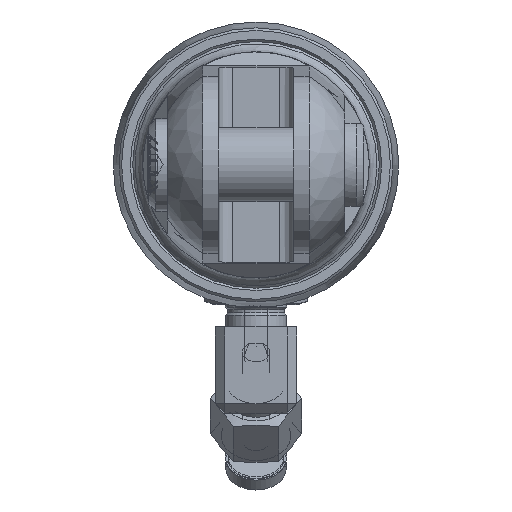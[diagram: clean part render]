
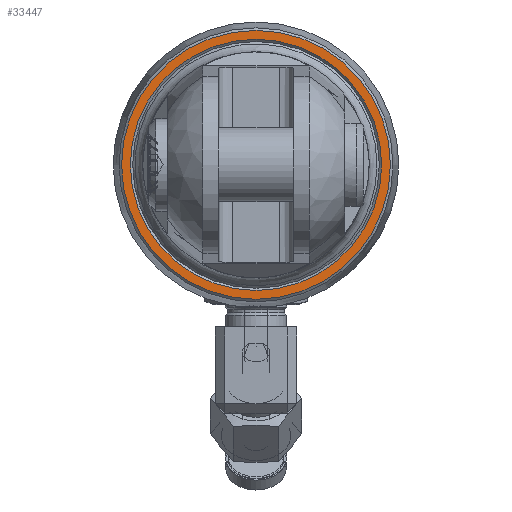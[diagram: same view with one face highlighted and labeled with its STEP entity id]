
A CAD part, left-side view. The second image highlights one B-rep face of the part: STEP entity #33447.
In plain terms, the highlighted planar face has unit normal (-1, 0, 0).
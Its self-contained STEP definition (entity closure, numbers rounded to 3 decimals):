
#426=FACE_BOUND('',#5419,.T.);
#1895=PLANE('',#34925);
#3549=FACE_OUTER_BOUND('',#5418,.T.);
#5418=EDGE_LOOP('',(#29230));
#5419=EDGE_LOOP('',(#29231));
#7047=CIRCLE('',#34906,27.);
#7062=CIRCLE('',#34926,28.888);
#15884=VERTEX_POINT('',#60821);
#15900=VERTEX_POINT('',#61031);
#20392=EDGE_CURVE('',#15884,#15884,#7047,.T.);
#20414=EDGE_CURVE('',#15900,#15900,#7062,.T.);
#29230=ORIENTED_EDGE('',*,*,#20414,.F.);
#29231=ORIENTED_EDGE('',*,*,#20392,.F.);
#33447=ADVANCED_FACE('',(#3549,#426),#1895,.T.);
#34906=AXIS2_PLACEMENT_3D('',#60822,#40480,#40481);
#34925=AXIS2_PLACEMENT_3D('',#61030,#40523,#40524);
#34926=AXIS2_PLACEMENT_3D('',#61032,#40525,#40526);
#40480=DIRECTION('center_axis',(-1.,0.,0.));
#40481=DIRECTION('ref_axis',(0.,1.,0.));
#40523=DIRECTION('center_axis',(-1.,0.,0.));
#40524=DIRECTION('ref_axis',(0.,0.,1.));
#40525=DIRECTION('center_axis',(1.,0.,0.));
#40526=DIRECTION('ref_axis',(0.,-1.,0.));
#60821=CARTESIAN_POINT('',(0.,-27.,0.));
#60822=CARTESIAN_POINT('Origin',(0.,0.,0.));
#61030=CARTESIAN_POINT('Origin',(0.,0.,0.));
#61031=CARTESIAN_POINT('',(0.,28.888,0.));
#61032=CARTESIAN_POINT('Origin',(0.,0.,0.));
